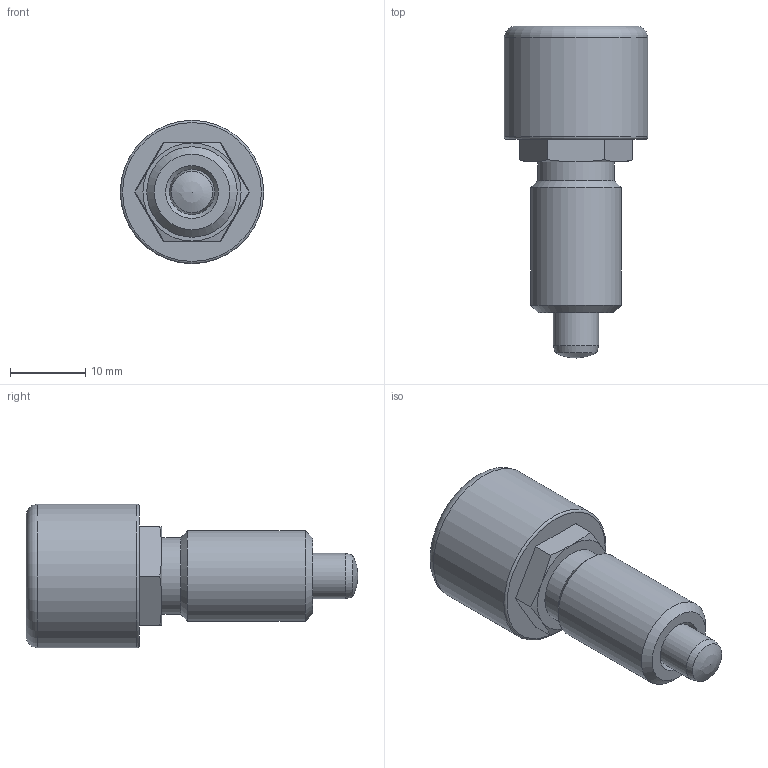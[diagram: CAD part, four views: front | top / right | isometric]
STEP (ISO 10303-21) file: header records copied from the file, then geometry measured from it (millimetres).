
FILE_DESCRIPTION( ( 'STEP AP203' ), '1' );
FILE_NAME( 'C:/Temp/Ganter_Step_05_03_2020/data/3_1/gn514/gn514_a/Locking plunger GN 514-6-A (activated).stp', '2020-03-12T08:32:05', ( 'License CC BY-ND 4.0' ), ( 'CADENAS' ), ' ', 'PARTsolutions', ' ' );
FILE_SCHEMA( ( 'CONFIG_CONTROL_DESIGN' ) );
Length unit declared in the file: millimetre
Products named in the file (3): Locking plunger GN 514-6-A (activated); _Locking plunger GN 514-6-A (betaetigt)-1; _Locking plunger GN 514-6-A (betaetigt)-2
Assembly tree (2 placements, depth 2):
  Locking plunger GN 514-6-A (activated)
    _Locking plunger GN 514-6-A (betaetigt)-1
    _Locking plunger GN 514-6-A (betaetigt)-2
Bounding box: 19 x 44 x 19 mm (x, y, z)
Volume: 6473.5 mm3; surface area: 5015.8 mm2
Topology: 2 solids, 2 shells, 62 faces, 123 edges, 75 vertices
Faces by surface type: plane 26, cylinder 13, cone 11, torus 10, bspline 1, sphere 1
Full cylindrical faces by diameter (mm): 6 x6, 8 x4, 10.2 x1, 12 x1, 19 x1
Entity records: 1609 total; most frequent: CARTESIAN_POINT 356, DIRECTION 246, ORIENTED_EDGE 178, AXIS2_PLACEMENT_3D 111, EDGE_LOOP 104, EDGE_CURVE 89, FACE_OUTER_BOUND 85, VERTEX_POINT 73
